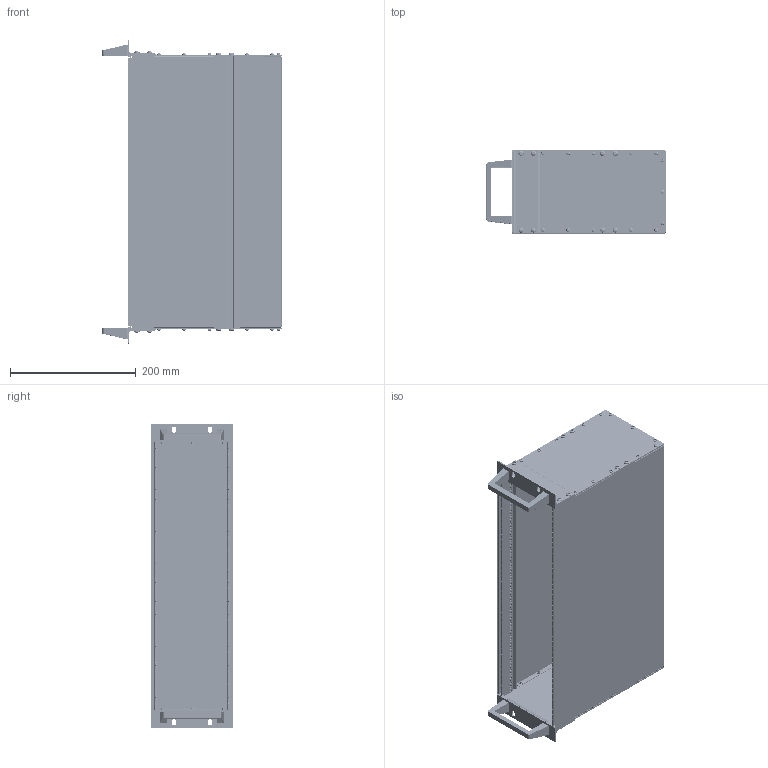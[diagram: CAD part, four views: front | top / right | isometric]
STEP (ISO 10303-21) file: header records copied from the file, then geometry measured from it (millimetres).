
FILE_DESCRIPTION (( 'STEP AP203' ), '1' );
FILE_NAME ('4384-2450（EG+ 3U 84TE 245MM 不通风）.STEP', '2026-02-08T08:26:25', ( '' ), ( '' ), 'SwSTEP 2.0', 'SolidWorks 2013', '' );
FILE_SCHEMA (( 'CONFIG_CONTROL_DESIGN' ));
Length unit declared in the file: millimetre
Products named in the file (15): 84TE-EG+ヶ褽; 内六角花型盘头螺钉M4×28; 4384-2450（EG+ 3U 84TE 245MM 不通风）; 3U-I倰そ敖銅; 3U陔ㄗ晜ㄘヶ楊擘; 3U參忒-250; 3U綴醱啣; 84TE蹟謂沭2X5; 24560235-掉怍-ヶ褽そ敖銅; 裔啣; GBT819.1十字槽沉头螺钉_M5×10; 3U耜啣; 内六角花型盘头螺钉M3×8_M3×8-3; 21TE-EK+橈埽沭; 84TE-EG+綴褽
Assembly tree (74 placements, depth 2):
  4384-2450（EG+ 3U 84TE 245MM 不通风）
    3U耜啣  x2
    裔啣  x2
    3U陔ㄗ晜ㄘヶ楊擘  x2
    3U綴醱啣
    84TE-EG+ヶ褽  x2
    84TE-EG+綴褽  x2
    84TE蹟謂沭2X5  x4
    21TE-EK+橈埽沭  x8
    3U參忒-250  x2
    内六角花型盘头螺钉M3×8_M3×8-3  x26
    内六角花型盘头螺钉M4×28  x16
    GBT819.1十字槽沉头螺钉_M5×10  x4
    3U-I倰そ敖銅
    24560235-掉怍-ヶ褽そ敖銅  x2
Bounding box: 285 x 132 x 482.6 mm (x, y, z)
Volume: 827074.4 mm3; surface area: 1069448.3 mm2
Topology: 154 solids, 154 shells, 22744 faces, 63592 edges, 41354 vertices
Faces by surface type: plane 13780, cylinder 7280, bspline 1098, torus 260, cone 220, sphere 106
Entity records: 221082 total; most frequent: CARTESIAN_POINT 56261, ORIENTED_EDGE 34796, DIRECTION 33332, EDGE_CURVE 17398, AXIS2_PLACEMENT_3D 11496, VERTEX_POINT 11311, VECTOR 10340, LINE 10340
